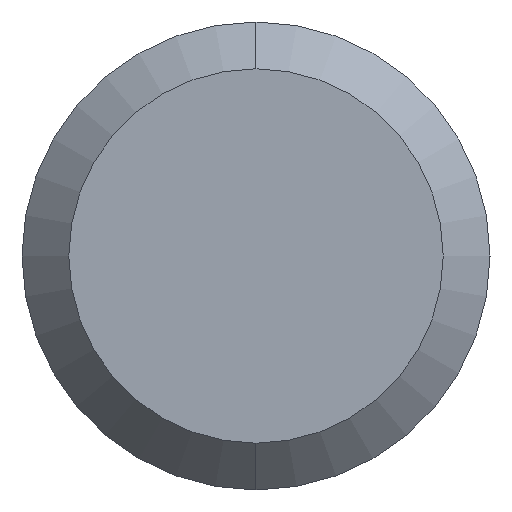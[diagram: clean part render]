
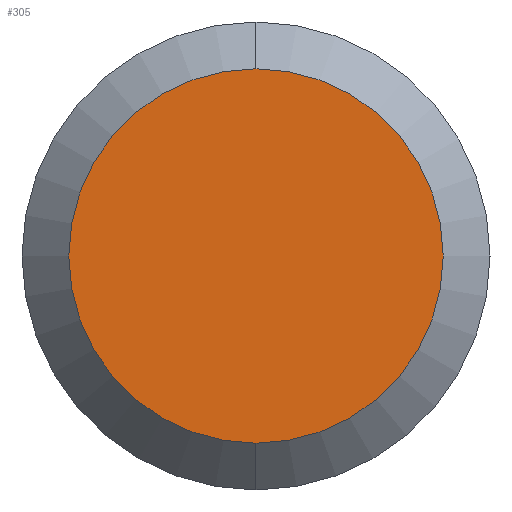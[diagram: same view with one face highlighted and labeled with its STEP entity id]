
A CAD part, left-side view. The second image highlights one B-rep face of the part: STEP entity #305.
In plain terms, the highlighted planar face has unit normal (-1, 0, 0).
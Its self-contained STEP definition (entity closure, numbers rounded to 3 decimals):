
#19 = AXIS2_PLACEMENT_3D ( 'NONE', #73, #69, #265 ) ;
#29 = AXIS2_PLACEMENT_3D ( 'NONE', #76, #81, #129 ) ;
#69 = DIRECTION ( 'NONE',  ( -1., 0., 0. ) ) ;
#73 = CARTESIAN_POINT ( 'NONE',  ( 0., 0., 0. ) ) ;
#76 = CARTESIAN_POINT ( 'NONE',  ( 0., 0., 0. ) ) ;
#81 = DIRECTION ( 'NONE',  ( -1., 0., 0. ) ) ;
#92 = FACE_OUTER_BOUND ( 'NONE', #486, .T. ) ;
#120 = VERTEX_POINT ( 'NONE', #264 ) ;
#129 = DIRECTION ( 'NONE',  ( 0., 0., 1. ) ) ;
#135 = EDGE_CURVE ( 'NONE', #120, #225, #400, .T. ) ;
#140 = EDGE_CURVE ( 'NONE', #225, #120, #219, .T. ) ;
#163 = DIRECTION ( 'NONE',  ( 0., 0., -1. ) ) ;
#201 = ORIENTED_EDGE ( 'NONE', *, *, #135, .T. ) ;
#219 = CIRCLE ( 'NONE', #19, 1.6 ) ;
#225 = VERTEX_POINT ( 'NONE', #439 ) ;
#230 = CARTESIAN_POINT ( 'NONE',  ( 0., 0., 0. ) ) ;
#264 = CARTESIAN_POINT ( 'NONE',  ( 0., 0., 1.6 ) ) ;
#265 = DIRECTION ( 'NONE',  ( 0., 0., 1. ) ) ;
#305 = ADVANCED_FACE ( 'NONE', ( #92 ), #420, .F. ) ;
#313 = ORIENTED_EDGE ( 'NONE', *, *, #140, .T. ) ;
#395 = DIRECTION ( 'NONE',  ( 1., 0., 0. ) ) ;
#400 = CIRCLE ( 'NONE', #29, 1.6 ) ;
#420 = PLANE ( 'NONE',  #485 ) ;
#439 = CARTESIAN_POINT ( 'NONE',  ( 0., 0., -1.6 ) ) ;
#485 = AXIS2_PLACEMENT_3D ( 'NONE', #230, #395, #163 ) ;
#486 = EDGE_LOOP ( 'NONE', ( #313, #201 ) ) ;
